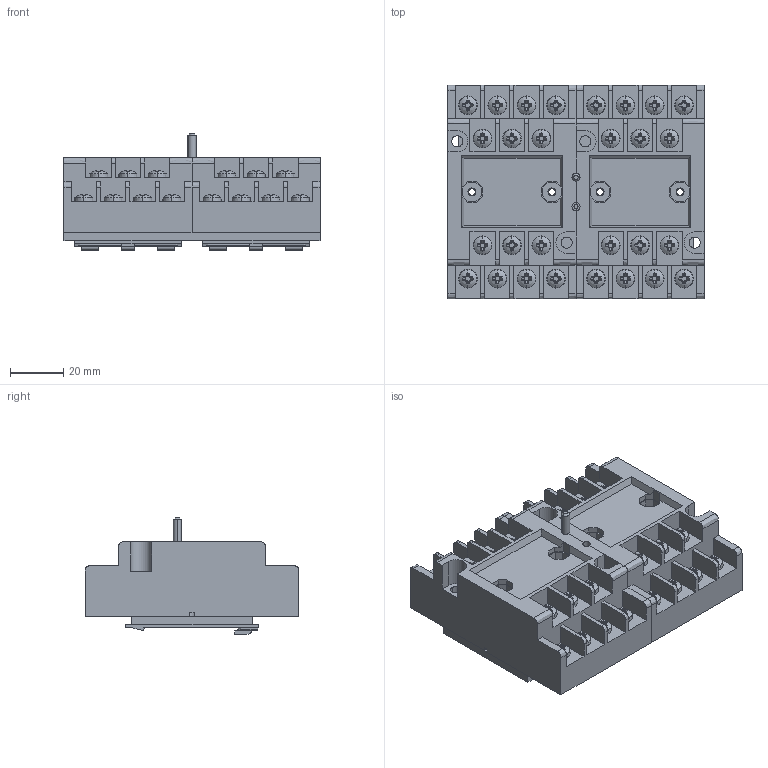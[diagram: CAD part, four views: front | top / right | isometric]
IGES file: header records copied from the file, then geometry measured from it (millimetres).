
Global section: file name: No Iges File Name specified; native system: Autodesk Inventor 2011; preprocessor: AutoDesk Inventor Iges Exporter R2011; author: a.vos; date: 20110401.113725; units: millimetre
Bounding box: 96 x 80 x 43.6 mm (x, y, z)
Volume: 177037.4 mm3; surface area: 40442.7 mm2
Topology: 1 solids, 35 shells, 1617 faces, 4389 edges, 2827 vertices
Faces by surface type: plane 913, cone 394, bspline 196, sphere 64, cylinder 30, revolution 20
